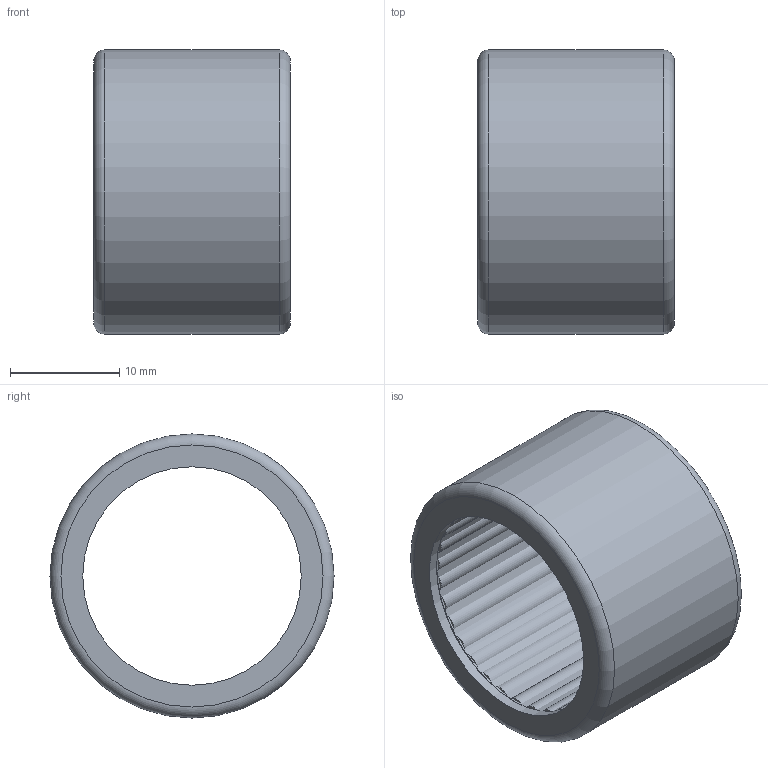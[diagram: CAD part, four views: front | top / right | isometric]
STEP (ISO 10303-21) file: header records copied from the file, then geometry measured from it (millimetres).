
FILE_DESCRIPTION(/* description */ (''),/* implementation_level */ '2;1');
FILE_NAME(/* name */ 'C:\Users\OUREHANEKD\Desktop\Ihlove loziska\HK-RS\HK-RS--\HK2018-RS.stp',/* time_stamp */ '2016-10-07T10:37:29+02:00',/* author */ ('OUREHANEKD'),/* organization */ (''),/* preprocessor_version */ 'ST-DEVELOPER v15.6',/* originating_system */ 'Autodesk Inventor 2015',/* authorisation */ '');
FILE_SCHEMA (('AUTOMOTIVE_DESIGN { 1 0 10303 214 3 1 1 }'));
Length unit declared in the file: millimetre
Products named in the file (4): HK2018-RS-01; HK2018-RS-kl; HK2018-RS-ihla; HK2018-RS
Assembly tree (34 placements, depth 2):
  HK2018-RS
    HK2018-RS-01
    HK2018-RS-kl
    HK2018-RS-ihla  x32
Bounding box: 18 x 26 x 26 mm (x, y, z)
Volume: 4818.2 mm3; surface area: 8943.3 mm2
Topology: 34 solids, 34 shells, 111 faces, 120 edges, 79 vertices
Faces by surface type: plane 70, cylinder 38, torus 2, cone 1
Full cylindrical faces by diameter (mm): 2.064 x32, 20 x2, 20.5 x1, 23.628 x1, 24.128 x1, 26 x1
Entity records: 696 total; most frequent: DIRECTION 146, CARTESIAN_POINT 90, AXIS2_PLACEMENT_3D 73, PRODUCT_DEFINITION_SHAPE 38, ITEM_DEFINED_TRANSFORMATION 34, CONTEXT_DEPENDENT_SHAPE_REPRESENTATION 34, NEXT_ASSEMBLY_USAGE_OCCURRENCE 34, EDGE_LOOP 34
